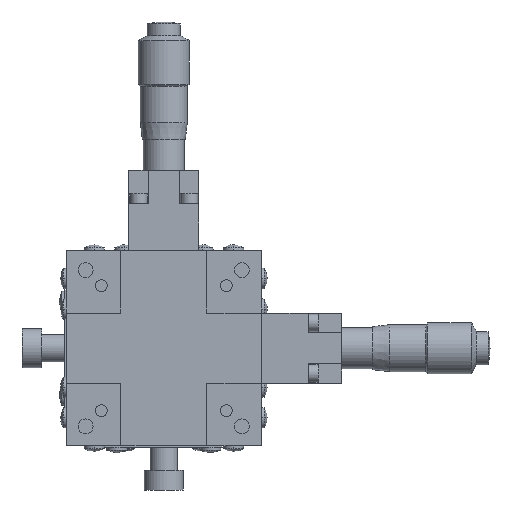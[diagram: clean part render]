
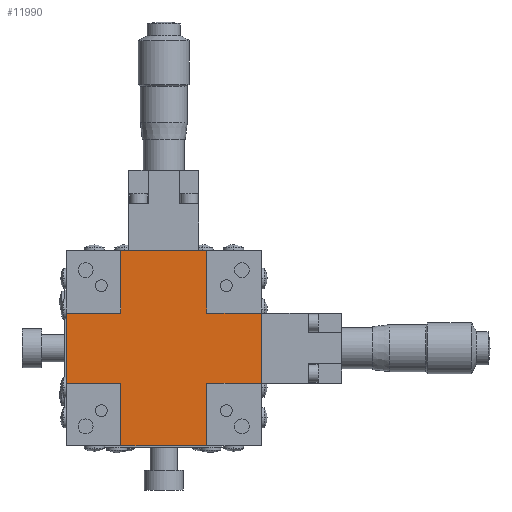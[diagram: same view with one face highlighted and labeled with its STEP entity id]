
A CAD part, front view. The second image highlights one B-rep face of the part: STEP entity #11990.
In plain terms, the highlighted planar face has unit normal (0, -1, 0).
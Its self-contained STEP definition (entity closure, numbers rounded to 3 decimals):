
#1854 = DIRECTION ( 'NONE',  ( 0., 0., -1. ) ) ;
#2101 = CARTESIAN_POINT ( 'NONE',  ( 11., 0.5, -34. ) ) ;
#3056 = LINE ( 'NONE', #3117, #3116 ) ;
#3095 = CARTESIAN_POINT ( 'NONE',  ( -11., 0.5, -34. ) ) ;
#3096 = DIRECTION ( 'NONE',  ( 0., 0., 1. ) ) ;
#3097 = VECTOR ( 'NONE', #3096, 1000. ) ;
#3098 = CARTESIAN_POINT ( 'NONE',  ( -11., 0.5, -80.141 ) ) ;
#3103 = CARTESIAN_POINT ( 'NONE',  ( -11., 0.5, 0. ) ) ;
#3108 = DIRECTION ( 'NONE',  ( 0., 0., 1. ) ) ;
#3109 = CARTESIAN_POINT ( 'NONE',  ( 11., 0.5, -80.141 ) ) ;
#3112 = CARTESIAN_POINT ( 'NONE',  ( 11., 0.5, -50. ) ) ;
#3114 = LINE ( 'NONE', #3098, #3097 ) ;
#3115 = DIRECTION ( 'NONE',  ( 1., 0., 0. ) ) ;
#3116 = VECTOR ( 'NONE', #3115, 1000. ) ;
#3117 = CARTESIAN_POINT ( 'NONE',  ( 0., 0.5, -34. ) ) ;
#3119 = LINE ( 'NONE', #3109, #3150 ) ;
#3120 = CARTESIAN_POINT ( 'NONE',  ( -11., 0.5, -50. ) ) ;
#3150 = VECTOR ( 'NONE', #3108, 1000. ) ;
#3155 = DIRECTION ( 'NONE',  ( 0., 0., -1. ) ) ;
#3156 = VECTOR ( 'NONE', #3155, 1000. ) ;
#3181 = CARTESIAN_POINT ( 'NONE',  ( -11., 0.5, -80.141 ) ) ;
#3182 = LINE ( 'NONE', #3181, #3156 ) ;
#3194 = DIRECTION ( 'NONE',  ( 1., 0., 0. ) ) ;
#3195 = VECTOR ( 'NONE', #3194, 1000. ) ;
#3196 = CARTESIAN_POINT ( 'NONE',  ( 0., 0.5, -16. ) ) ;
#3197 = LINE ( 'NONE', #3196, #3195 ) ;
#3198 = CARTESIAN_POINT ( 'NONE',  ( -25., 0.5, -16. ) ) ;
#3210 = CARTESIAN_POINT ( 'NONE',  ( -11., 0.5, -16. ) ) ;
#3219 = CARTESIAN_POINT ( 'NONE',  ( 11., 0.5, 0. ) ) ;
#3237 = CARTESIAN_POINT ( 'NONE',  ( -25., 0.5, -34. ) ) ;
#3260 = DIRECTION ( 'NONE',  ( 0., 0., -1. ) ) ;
#3261 = VECTOR ( 'NONE', #3260, 1000. ) ;
#3262 = CARTESIAN_POINT ( 'NONE',  ( 11., 0.5, -80.141 ) ) ;
#3264 = CARTESIAN_POINT ( 'NONE',  ( 11., 0.5, -16. ) ) ;
#3272 = LINE ( 'NONE', #3262, #3261 ) ;
#3371 = VECTOR ( 'NONE', #1854, 1000. ) ;
#3372 = CARTESIAN_POINT ( 'NONE',  ( -25., 0.5, -80.141 ) ) ;
#3377 = LINE ( 'NONE', #3372, #3371 ) ;
#4411 = DIRECTION ( 'NONE',  ( 1., 0., 0. ) ) ;
#4412 = VECTOR ( 'NONE', #4411, 1000. ) ;
#4413 = CARTESIAN_POINT ( 'NONE',  ( 0., 0.5, -50. ) ) ;
#4424 = LINE ( 'NONE', #4413, #4412 ) ;
#4427 = DIRECTION ( 'NONE',  ( 0., -1., 0. ) ) ;
#4428 = CARTESIAN_POINT ( 'NONE',  ( 0., 0.5, -80.141 ) ) ;
#4429 = FACE_OUTER_BOUND ( 'NONE', #11978, .T. ) ;
#4438 = CARTESIAN_POINT ( 'NONE',  ( 25., 0.5, -34. ) ) ;
#4463 = CARTESIAN_POINT ( 'NONE',  ( 0., 0.5, -16. ) ) ;
#4464 = LINE ( 'NONE', #4463, #4523 ) ;
#4470 = DIRECTION ( 'NONE',  ( -1., 0., 0. ) ) ;
#4471 = VECTOR ( 'NONE', #4470, 1000. ) ;
#4472 = CARTESIAN_POINT ( 'NONE',  ( 0., 0.5, 0. ) ) ;
#4481 = DIRECTION ( 'NONE',  ( 0., 0., -1. ) ) ;
#4486 = LINE ( 'NONE', #4472, #4471 ) ;
#4487 = DIRECTION ( 'NONE',  ( -1., 0., 0. ) ) ;
#4488 = VECTOR ( 'NONE', #4487, 1000. ) ;
#4489 = PLANE ( 'NONE',  #4494 ) ;
#4491 = CARTESIAN_POINT ( 'NONE',  ( 0., 0.5, -34. ) ) ;
#4493 = LINE ( 'NONE', #4491, #4488 ) ;
#4494 = AXIS2_PLACEMENT_3D ( 'NONE', #4428, #4427, #4481 ) ;
#4500 = DIRECTION ( 'NONE',  ( 0., 0., 1. ) ) ;
#4501 = VECTOR ( 'NONE', #4500, 1000. ) ;
#4502 = CARTESIAN_POINT ( 'NONE',  ( 25., 0.5, -80.141 ) ) ;
#4506 = LINE ( 'NONE', #4502, #4501 ) ;
#4517 = CARTESIAN_POINT ( 'NONE',  ( 25., 0.5, -16. ) ) ;
#4522 = DIRECTION ( 'NONE',  ( -1., 0., 0. ) ) ;
#4523 = VECTOR ( 'NONE', #4522, 1000. ) ;
#8532 = EDGE_CURVE ( 'NONE', #8612, #8547, #3056, .T. ) ;
#8539 = VERTEX_POINT ( 'NONE', #3112 ) ;
#8543 = EDGE_CURVE ( 'NONE', #8549, #8547, #3114, .T. ) ;
#8547 = VERTEX_POINT ( 'NONE', #3095 ) ;
#8548 = EDGE_CURVE ( 'NONE', #8539, #8564, #3119, .T. ) ;
#8549 = VERTEX_POINT ( 'NONE', #3120 ) ;
#8552 = VERTEX_POINT ( 'NONE', #3103 ) ;
#8564 = VERTEX_POINT ( 'NONE', #2101 ) ;
#8590 = EDGE_CURVE ( 'NONE', #8552, #8592, #3182, .T. ) ;
#8592 = VERTEX_POINT ( 'NONE', #3210 ) ;
#8598 = EDGE_CURVE ( 'NONE', #8607, #8592, #3197, .T. ) ;
#8607 = VERTEX_POINT ( 'NONE', #3198 ) ;
#8612 = VERTEX_POINT ( 'NONE', #3237 ) ;
#8633 = EDGE_CURVE ( 'NONE', #8641, #8634, #3272, .T. ) ;
#8634 = VERTEX_POINT ( 'NONE', #3264 ) ;
#8641 = VERTEX_POINT ( 'NONE', #3219 ) ;
#8717 = EDGE_CURVE ( 'NONE', #8607, #8612, #3377, .T. ) ;
#11931 = EDGE_CURVE ( 'NONE', #8549, #8539, #4424, .T. ) ;
#11965 = ORIENTED_EDGE ( 'NONE', *, *, #11931, .T. ) ;
#11967 = ORIENTED_EDGE ( 'NONE', *, *, #8590, .T. ) ;
#11969 = ORIENTED_EDGE ( 'NONE', *, *, #8598, .F. ) ;
#11970 = ORIENTED_EDGE ( 'NONE', *, *, #8717, .T. ) ;
#11976 = ORIENTED_EDGE ( 'NONE', *, *, #11987, .F. ) ;
#11978 = EDGE_LOOP ( 'NONE', ( #11984, #11967, #11969, #11970, #11989, #12005, #11965, #12007, #11976, #12021, #11982, #11985 ) ) ;
#11982 = ORIENTED_EDGE ( 'NONE', *, *, #11998, .T. ) ;
#11984 = ORIENTED_EDGE ( 'NONE', *, *, #11994, .T. ) ;
#11985 = ORIENTED_EDGE ( 'NONE', *, *, #8633, .F. ) ;
#11987 = EDGE_CURVE ( 'NONE', #11988, #8564, #4493, .T. ) ;
#11988 = VERTEX_POINT ( 'NONE', #4438 ) ;
#11989 = ORIENTED_EDGE ( 'NONE', *, *, #8532, .T. ) ;
#11990 = ADVANCED_FACE ( 'NONE', ( #4429 ), #4489, .T. ) ;
#11994 = EDGE_CURVE ( 'NONE', #8641, #8552, #4486, .T. ) ;
#11998 = EDGE_CURVE ( 'NONE', #12013, #8634, #4464, .T. ) ;
#12005 = ORIENTED_EDGE ( 'NONE', *, *, #8543, .F. ) ;
#12007 = ORIENTED_EDGE ( 'NONE', *, *, #8548, .T. ) ;
#12013 = VERTEX_POINT ( 'NONE', #4517 ) ;
#12014 = EDGE_CURVE ( 'NONE', #11988, #12013, #4506, .T. ) ;
#12021 = ORIENTED_EDGE ( 'NONE', *, *, #12014, .T. ) ;
